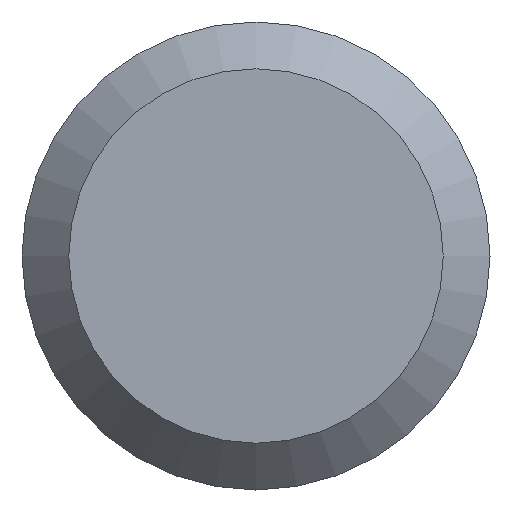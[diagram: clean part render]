
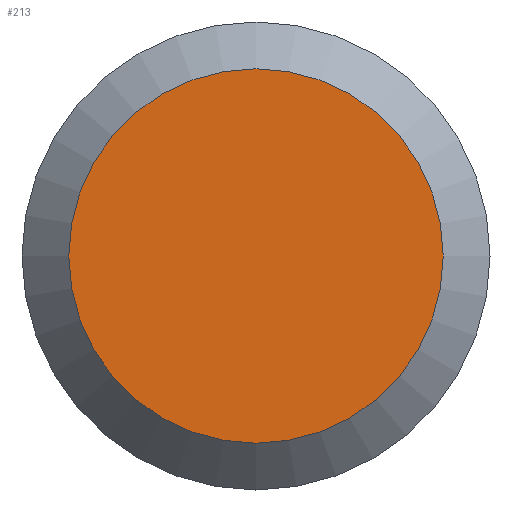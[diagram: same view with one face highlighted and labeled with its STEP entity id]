
A CAD part, left-side view. The second image highlights one B-rep face of the part: STEP entity #213.
In plain terms, the highlighted planar face has unit normal (-1, 0, 0).
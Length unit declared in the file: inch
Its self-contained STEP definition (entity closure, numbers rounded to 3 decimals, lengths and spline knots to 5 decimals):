
#2 = AXIS2_PLACEMENT_3D ( 'NONE', #200, #190, #192 ) ;
#7 = AXIS2_PLACEMENT_3D ( 'NONE', #66, #205, #202 ) ;
#17 = CARTESIAN_POINT ( 'NONE',  ( 0., 0., -0.0678 ) ) ;
#47 = EDGE_LOOP ( 'NONE', ( #134 ) ) ;
#64 = VERTEX_POINT ( 'NONE', #17 ) ;
#66 = CARTESIAN_POINT ( 'NONE',  ( 0., 0.08475, 0. ) ) ;
#84 = PLANE ( 'NONE',  #7 ) ;
#112 = CIRCLE ( 'NONE', #2, 0.0678 ) ;
#134 = ORIENTED_EDGE ( 'NONE', *, *, #210, .T. ) ;
#179 = FACE_OUTER_BOUND ( 'NONE', #47, .T. ) ;
#190 = DIRECTION ( 'NONE',  ( -1., 0., 0. ) ) ;
#192 = DIRECTION ( 'NONE',  ( 0., 0., -1. ) ) ;
#200 = CARTESIAN_POINT ( 'NONE',  ( 0., 0., 0. ) ) ;
#202 = DIRECTION ( 'NONE',  ( 0., 0., -1. ) ) ;
#205 = DIRECTION ( 'NONE',  ( 1., 0., 0. ) ) ;
#210 = EDGE_CURVE ( 'NONE', #64, #64, #112, .T. ) ;
#213 = ADVANCED_FACE ( 'NONE', ( #179 ), #84, .F. ) ;
